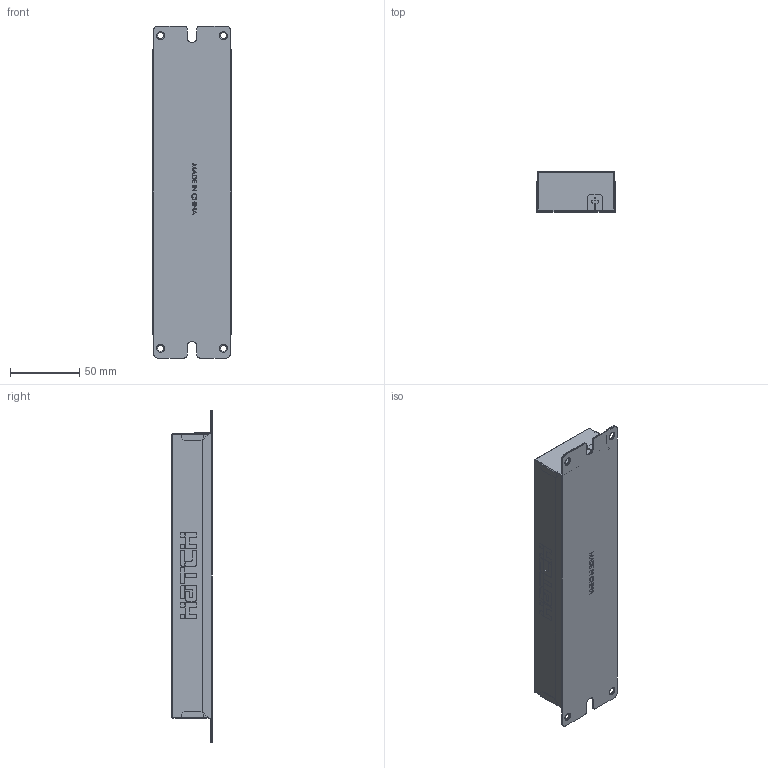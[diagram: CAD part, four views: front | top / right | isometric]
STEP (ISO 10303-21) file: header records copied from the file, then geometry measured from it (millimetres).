
FILE_DESCRIPTION (( 'STEP AP203' ), '1' );
FILE_NAME ('Box Assy-¹q¦À²° 2800mA.STEP', '2016-10-08T00:06:46', ( '' ), ( '' ), 'SwSTEP 2.0', 'SolidWorks 2012', '' );
FILE_SCHEMA (( 'CONFIG_CONTROL_DESIGN' ));
Length unit declared in the file: millimetre
Products named in the file (4): Box Assy-電池盒  2800mA; 511-00004750  Cover- EMD12-UVN-1241V  2800mA; Bushing; 511-00004760 Base-EMD12-UVN-1241V 2800mA
Assembly tree (3 placements, depth 2):
  Box Assy-電池盒  2800mA
    511-00004750  Cover- EMD12-UVN-1241V  2800mA
    511-00004760 Base-EMD12-UVN-1241V 2800mA
    Bushing
Bounding box: 57 x 29.1 x 240 mm (x, y, z)
Volume: 26552.7 mm3; surface area: 88772.9 mm2
Topology: 3 solids, 3 shells, 607 faces, 1549 edges, 994 vertices
Faces by surface type: plane 467, cylinder 92, torus 32, bspline 16
Entity records: 19449 total; most frequent: CARTESIAN_POINT 4212, ORIENTED_EDGE 3098, DIRECTION 2975, EDGE_CURVE 1549, VECTOR 1253, LINE 1253, VERTEX_POINT 994, AXIS2_PLACEMENT_3D 861
